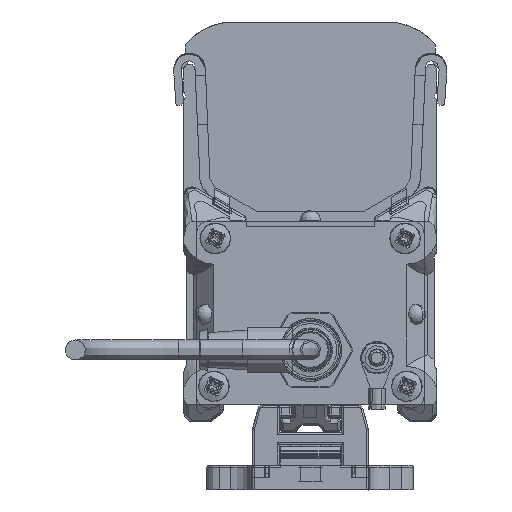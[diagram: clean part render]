
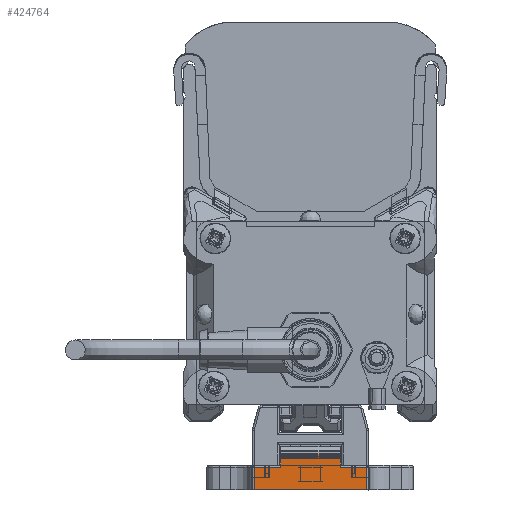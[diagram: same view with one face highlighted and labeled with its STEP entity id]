
A CAD part, left-side view. The second image highlights one B-rep face of the part: STEP entity #424764.
In plain terms, the highlighted planar face has unit normal (-1, 0, 0) as drawn and (1, 0, 0) by its records, which use the part's own axes.
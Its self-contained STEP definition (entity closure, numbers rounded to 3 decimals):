
#159127=ORIENTED_EDGE('',*,*,#225166,.F.);
#159128=ORIENTED_EDGE('',*,*,#225167,.T.);
#159129=ORIENTED_EDGE('',*,*,#225168,.F.);
#159130=ORIENTED_EDGE('',*,*,#225164,.T.);
#159131=ORIENTED_EDGE('',*,*,#225138,.F.);
#159132=ORIENTED_EDGE('',*,*,#225169,.T.);
#159133=ORIENTED_EDGE('',*,*,#225170,.F.);
#159134=ORIENTED_EDGE('',*,*,#225171,.T.);
#193399=VECTOR('',#260557,1.);
#193417=VECTOR('',#260591,1.);
#193418=VECTOR('',#260596,1.);
#193419=VECTOR('',#260597,1.);
#193420=VECTOR('',#260598,1.);
#193421=VECTOR('',#260599,1.);
#193422=VECTOR('',#260600,1.);
#193423=VECTOR('',#260601,1.);
#203456=LINE('',#298473,#193399);
#203474=LINE('',#298564,#193417);
#203475=LINE('',#298569,#193418);
#203476=LINE('',#298571,#193419);
#203477=LINE('',#298572,#193420);
#203478=LINE('',#298574,#193421);
#203479=LINE('',#298576,#193422);
#203480=LINE('',#298577,#193423);
#213642=VERTEX_POINT('',#298470);
#213643=VERTEX_POINT('',#298472);
#213666=VERTEX_POINT('',#298563);
#213667=VERTEX_POINT('',#298567);
#213668=VERTEX_POINT('',#298568);
#213669=VERTEX_POINT('',#298570);
#213670=VERTEX_POINT('',#298573);
#213671=VERTEX_POINT('',#298575);
#225138=EDGE_CURVE('',#213642,#213643,#203456,.T.);
#225164=EDGE_CURVE('',#213666,#213643,#203474,.T.);
#225166=EDGE_CURVE('',#213667,#213668,#203475,.T.);
#225167=EDGE_CURVE('',#213667,#213669,#203476,.T.);
#225168=EDGE_CURVE('',#213666,#213669,#203477,.T.);
#225169=EDGE_CURVE('',#213642,#213670,#203478,.T.);
#225170=EDGE_CURVE('',#213671,#213670,#203479,.T.);
#225171=EDGE_CURVE('',#213671,#213668,#203480,.T.);
#242527=EDGE_LOOP('',(#159127,#159128,#159129,#159130,#159131,#159132,#159133,
#159134));
#250707=FACE_BOUND('',#242527,.T.);
#260557=DIRECTION('',(0.,-26.996,0.));
#260591=DIRECTION('',(0.,0.,-5.5));
#260594=DIRECTION('',(1.,0.,0.));
#260595=DIRECTION('',(0.,-1.,0.));
#260596=DIRECTION('',(0.,14.4,0.));
#260597=DIRECTION('',(0.,0.,-3.1));
#260598=DIRECTION('',(0.,6.298,0.));
#260599=DIRECTION('',(0.,0.,5.5));
#260600=DIRECTION('',(0.,6.298,0.));
#260601=DIRECTION('',(0.,0.,3.1));
#298470=CARTESIAN_POINT('',(96.175,75.88,-3.));
#298472=CARTESIAN_POINT('',(96.175,48.884,-3.));
#298473=CARTESIAN_POINT('',(96.175,75.88,-3.));
#298563=CARTESIAN_POINT('',(96.175,48.884,2.5));
#298564=CARTESIAN_POINT('',(96.175,48.884,2.5));
#298566=CARTESIAN_POINT('',(96.175,55.182,5.6));
#298567=CARTESIAN_POINT('',(96.175,55.182,5.6));
#298568=CARTESIAN_POINT('',(96.175,69.582,5.6));
#298569=CARTESIAN_POINT('',(96.175,55.182,5.6));
#298570=CARTESIAN_POINT('',(96.175,55.182,2.5));
#298571=CARTESIAN_POINT('',(96.175,55.182,5.6));
#298572=CARTESIAN_POINT('',(96.175,48.884,2.5));
#298573=CARTESIAN_POINT('',(96.175,75.88,2.5));
#298574=CARTESIAN_POINT('',(96.175,75.88,-3.));
#298575=CARTESIAN_POINT('',(96.175,69.582,2.5));
#298576=CARTESIAN_POINT('',(96.175,69.582,2.5));
#298577=CARTESIAN_POINT('',(96.175,69.582,2.5));
#408801=AXIS2_PLACEMENT_3D('',#298566,#260594,#260595);
#421522=PLANE('',#408801);
#424764=ADVANCED_FACE('',(#250707),#421522,.T.);
